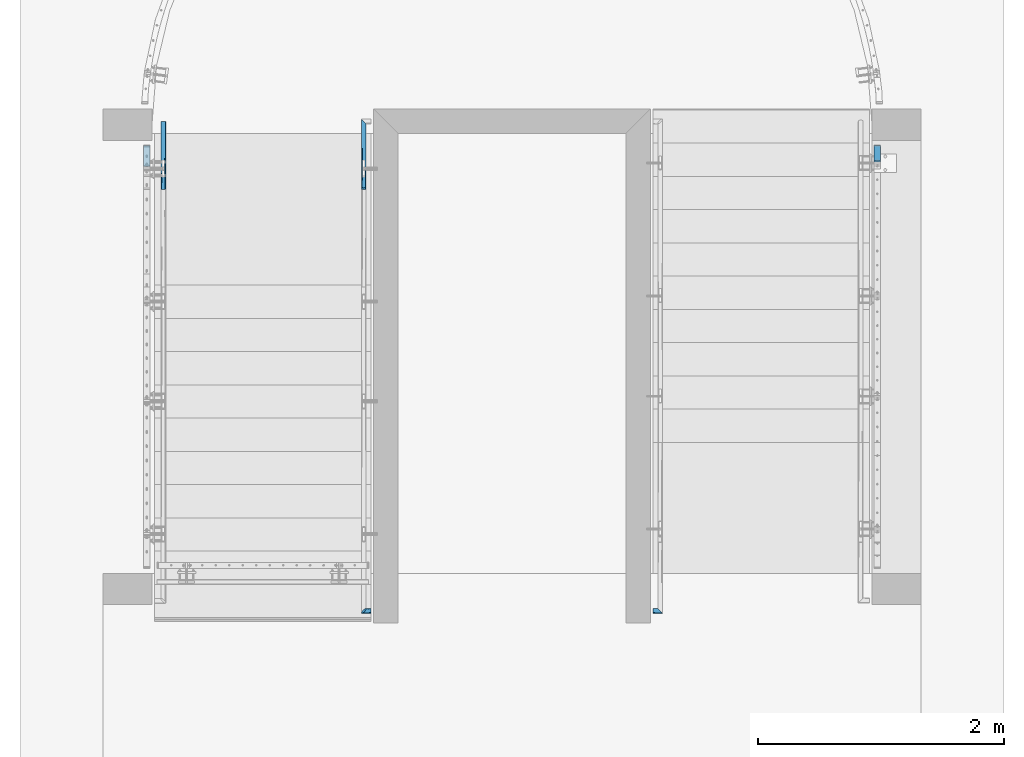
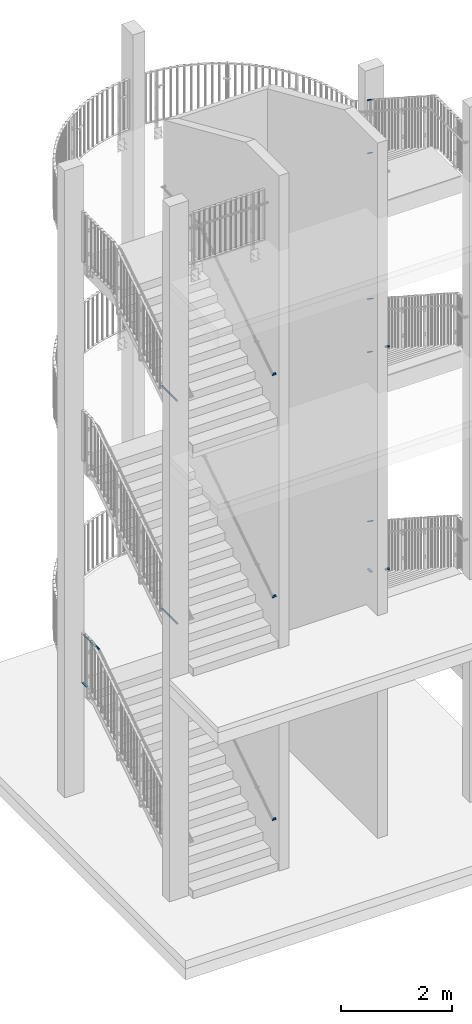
# One storey, part 100 of 296: 10 beams, 5 members, 5 openings.
"""IFC2X3 building model written with IfcOpenShell, lengths in millimetres."""

from ifc_helpers import new_model, entity, si_unit, converted_unit, frame, origin, origin_with_axes, origin_2d, place, context, project, spatial, polyline, rectangle, circle, outline, extrude, clip, halfspace, material, element, save


model = new_model("IFC2X3")

# Units and contexts
model_context = context("Model", 3, precision=1e-09, world=origin_with_axes())
ifc_project = project(units=[si_unit("LENGTHUNIT", "METRE", prefix="MILLI"), si_unit("AREAUNIT", "SQUARE_METRE"), si_unit("VOLUMEUNIT", "CUBIC_METRE"), converted_unit("PLANEANGLEUNIT", "DEGREE", entity("IfcPlaneAngleMeasure", 0.01745329), si_unit("PLANEANGLEUNIT", "RADIAN"), dimensions=[0, 0, 0, 0, 0, 0, 0])], contexts=[model_context])

# Site, building, storey
site_placement = place(None, origin_with_axes())
site = spatial("IfcSite", under=ifc_project, at=site_placement, Name="TZD-S?d | Treppenhausgel?nder", CompositionType="ELEMENT")
building_placement = place(site_placement, origin_with_axes())
building = spatial("IfcBuilding", under=site, at=building_placement, Name="Struktur 1", CompositionType="ELEMENT")
storey_placement = place(building_placement, origin_with_axes())
storey = spatial("IfcBuildingStorey", under=building, at=storey_placement, Name="Default Storey", CompositionType="ELEMENT", Elevation=0.0)

# Member, opening
ifc_material_1 = material(Name="S235JR")
member_1_placement = place(None, frame((5894.999, -275.642055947, 8789.555093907), z_axis=(0.0, -0.839339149, 0.543608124), x_axis=(0.0, 0.543608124, 0.839339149)))
member_1 = element("IfcMember", 1, at=member_1_placement, inside=storey, material=ifc_material_1, Name="Gel?nder", ObjectType="Gel?nder", context=model_context, shape_type="Clipping", body=[
    clip(extrude(rectangle(XDim=10.0, YDim=50.0, at=origin_2d()), origin(), (0.0, 0.0, 1.0), 190.120983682), halfspace(frame((-3463.787738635, 5894.999, 1912.461112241), z_axis=(0.477698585, 0.0, 0.878523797), x_axis=(0.0, -1.0, 0.0)), True)),
])
opening_1_placement = place(member_1_placement, frame((-39.872573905, -125.1, 197.155779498), z_axis=(0.0, -1.0, 0.0), x_axis=(0.543608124, 0.0, -0.839339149)))
element("IfcOpeningElement", 2, at=opening_1_placement, cuts=member_1, ObjectType="Opening", context=model_context, shape_type="SweptSolid", body=[
    extrude(outline(polyline([(0.0, 0.0), (30.298675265, 0.0), (30.298675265, 80.401021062), (0.0, 80.401021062), (0.0, 0.0)])), origin(), (0.0, 0.0, -1.0), 250.2),
])

member_2_placement = place(None, frame((5894.999, -292.281959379, 7632.246263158), z_axis=(0.0, -0.839339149, 0.543608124), x_axis=(0.0, 0.543608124, 0.839339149)))
member_2 = element("IfcMember", 3, at=member_2_placement, inside=storey, material=ifc_material_1, Name="-", ObjectType="-", context=model_context, shape_type="Clipping", body=[
    clip(extrude(rectangle(XDim=10.0, YDim=50.0, at=origin_2d()), origin(), (0.0, 0.0, 1.0), 188.497269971), halfspace(frame((-6474.112084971, 5894.999, -4043.851510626), z_axis=(0.543608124, 0.0, -0.839339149), x_axis=(0.0, 1.0, 0.0)), True)),
])
opening_2_placement = place(member_2_placement, frame((-30.538884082, -125.1, -16.539374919), z_axis=(0.0, -1.0, 0.0), x_axis=(0.543608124, 0.0, -0.839339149)))
element("IfcOpeningElement", 4, at=opening_2_placement, cuts=member_2, ObjectType="Opening", context=model_context, shape_type="SweptSolid", body=[
    extrude(outline(polyline([(0.0, 0.0), (64.006051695, 0.0), (64.006051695, 55.780597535), (0.0, 55.780597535), (0.0, 0.0)])), origin(), (0.0, 0.0, -1.0), 250.2),
])

member_3_placement = place(None, frame((5894.999, -275.624751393, 3896.341773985), z_axis=(0.0, -0.83975893, 0.542959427), x_axis=(0.0, 0.542959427, 0.83975893)))
member_3 = element("IfcMember", 5, at=member_3_placement, inside=storey, material=ifc_material_1, Name="Gel?nder", ObjectType="Gel?nder", context=model_context, shape_type="Clipping", body=[
    clip(extrude(rectangle(XDim=10.0, YDim=50.0, at=origin_2d()), origin(), (0.0, 0.0, 1.0), 190.042689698), halfspace(frame((-1411.166892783, 5894.999, 797.05818635), z_axis=(0.478037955, 0.0, 0.878339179), x_axis=(0.0, -1.0, 0.0)), True)),
])
opening_3_placement = place(member_3_placement, frame((-43.556477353, -125.1, 203.171378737), z_axis=(0.0, -1.0, 0.0), x_axis=(0.542959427, 0.0, -0.83975893)))
element("IfcOpeningElement", 6, at=opening_3_placement, cuts=member_3, ObjectType="Opening", context=model_context, shape_type="SweptSolid", body=[
    extrude(outline(polyline([(0.0, 0.0), (37.39013099, 0.0), (37.39013099, 81.550782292), (0.0, 81.550782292), (0.0, 0.0)])), origin(), (0.0, 0.0, -1.0), 250.2),
])

# Beam
beam_1_placement = place(None, frame((5894.999, -295.0, 2864.999), z_axis=(0.0, -1.0, 0.0), x_axis=(0.0, 0.0, 1.0)))
element("IfcBeam", 7, at=beam_1_placement, inside=storey, material=ifc_material_1, Name="-", ObjectType="-", context=model_context, shape_type="SweptSolid", body=[
    extrude(rectangle(XDim=10.0, YDim=50.0, at=origin_2d()), origin(), (0.0, 0.0, 1.0), 122.5),
])

# Member, opening
member_4_placement = place(None, frame((5894.999, -275.638590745, 13167.932584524), z_axis=(0.0, -0.839423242, 0.543478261), x_axis=(0.0, 0.543478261, 0.839423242)))
member_4 = element("IfcMember", 8, at=member_4_placement, inside=storey, material=ifc_material_1, Name="Gel?nder", ObjectType="Gel?nder", context=model_context, shape_type="Clipping", body=[
    clip(extrude(rectangle(XDim=10.0, YDim=50.0, at=origin_2d()), origin(), (0.0, 0.0, 1.0), 190.105291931), halfspace(frame((-5301.832064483, 5894.999, 2912.433008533), z_axis=(0.477766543, 0.0, 0.878486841), x_axis=(0.0, -1.0, 0.0)), True)),
])
opening_4_placement = place(member_4_placement, frame((-44.132148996, -125.1, 205.69891704), z_axis=(0.0, -1.0, 0.0), x_axis=(0.543478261, 0.0, -0.839423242)))
element("IfcOpeningElement", 9, at=opening_4_placement, cuts=member_4, ObjectType="Opening", context=model_context, shape_type="SweptSolid", body=[
    extrude(outline(polyline([(0.0, 0.0), (39.79290624, 0.0), (39.79290624, 80.529347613), (0.0, 80.529347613), (0.0, 0.0)])), origin(), (0.0, 0.0, -1.0), 250.2),
])

member_5_placement = place(None, frame((5894.999, -292.282608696, 12010.621570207), z_axis=(0.0, -0.839423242, 0.543478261), x_axis=(0.0, 0.543478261, 0.839423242)))
member_5 = element("IfcMember", 10, at=member_5_placement, inside=storey, material=ifc_material_1, Name="-", ObjectType="-", context=model_context, shape_type="Clipping", body=[
    clip(extrude(rectangle(XDim=10.0, YDim=50.0, at=origin_2d()), origin(), (0.0, 0.0, 1.0), 188.477612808), halfspace(frame((-10150.04728885, 5894.999, -6422.402173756), z_axis=(0.543478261, 0.0, -0.839423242), x_axis=(0.0, 1.0, 0.0)), True)),
])
opening_5_placement = place(member_5_placement, frame((-24.309652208, -125.1, -12.500697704), z_axis=(0.0, -1.0, 0.0), x_axis=(0.543478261, 0.0, -0.839423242)))
element("IfcOpeningElement", 11, at=opening_5_placement, cuts=member_5, ObjectType="Opening", context=model_context, shape_type="SweptSolid", body=[
    extrude(outline(polyline([(0.0, 0.0), (47.941552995, 0.0), (47.941552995, 49.371681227), (0.0, 49.371681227), (0.0, 0.0)])), origin(), (0.0, 0.0, -1.0), 250.2),
])

# Beams
ifc_material_2 = material(Name="Buche")
beam_2_placement = place(None, frame((1680.0, -4080.0, 10897.103877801), z_axis=(-1.0, 0.0, 0.0), x_axis=(0.0, -1.0, 0.0)))
element("IfcBeam", 12, at=beam_2_placement, inside=storey, material=ifc_material_2, Name="Girder", ObjectType="Girder", context=model_context, shape_type="Clipping", body=[
    clip(extrude(circle(Radius=20.0, at=origin_2d()), origin(), (0.0, 0.0, -1.0), 100.0), halfspace(frame((-4406.321932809, -10685.829198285, 2068.74541031), z_axis=(0.593561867, -0.384297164, -0.707106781), x_axis=(-0.765922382, 0.0, -0.642933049)), True)),
])
beam_3_placement = place(None, frame((1680.0, -4080.000000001, 6006.515738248), z_axis=(-1.0, 0.0, 0.0), x_axis=(0.0, -1.0, 0.0)))
element("IfcBeam", 13, at=beam_3_placement, inside=storey, material=ifc_material_2, Name="Girder", ObjectType="Girder", context=model_context, shape_type="Clipping", body=[
    clip(extrude(circle(Radius=20.0, at=origin_2d()), origin(), (0.0, 0.0, -1.0), 100.0), halfspace(frame((-3285.267844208, -6519.321391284, 734.183507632), z_axis=(0.594153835, -0.383381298, -0.707106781), x_axis=(-0.765606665, 0.0, -0.643308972)), True)),
])
beam_4_placement = place(None, frame((1680.0, -4080.0, 1104.146295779), z_axis=(-1.0, 0.0, 0.0), x_axis=(0.0, -1.0, 0.0)))
element("IfcBeam", 14, at=beam_4_placement, inside=storey, material=ifc_material_2, Name="Girder", ObjectType="Girder", context=model_context, shape_type="Clipping", body=[
    clip(extrude(circle(Radius=20.0, at=origin_2d()), origin(), (0.0, 0.0, -1.0), 100.0), halfspace(frame((-2174.883218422, -2340.114761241, -590.922279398), z_axis=(0.593204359, -0.384848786, -0.707106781), x_axis=(-0.766113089, 0.0, -0.642705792)), True)),
])
beam_5_placement = place(None, frame((1720.0, -663.59284486, 8229.999), z_axis=(0.0, 1.0, 0.0), x_axis=(-1.0, 0.0, 0.0)))
element("IfcBeam", 15, at=beam_5_placement, inside=storey, material=ifc_material_2, Name="Girder", ObjectType="Girder", context=model_context, shape_type="Clipping", body=[
    clip(clip(extrude(circle(Radius=20.0, at=origin_2d()), origin(), (0.0, 0.0, 1.0), 603.593845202), halfspace(frame((910.000206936, -8229.999, 1473.592637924), z_axis=(0.707106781, 0.0, -0.707106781), x_axis=(-0.707106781, 0.0, -0.707106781)), True)), halfspace(frame((1720.0, -7744.571296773, 2311.216125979), z_axis=(0.0, 0.282612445, 0.959234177), x_axis=(1.0, 0.0, 0.0)), True)),
])
beam_6_placement = place(None, frame((1720.0, -678.578275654, 3329.998), z_axis=(0.0, 1.0, 0.0), x_axis=(-1.0, 0.0, 0.0)))
element("IfcBeam", 16, at=beam_6_placement, inside=storey, material=ifc_material_2, Name="Girder", ObjectType="Girder", context=model_context, shape_type="Clipping", body=[
    clip(clip(extrude(circle(Radius=20.0, at=origin_2d()), origin(), (0.0, 0.0, 1.0), 618.579275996), halfspace(frame((910.000206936, -3329.998, 1488.578068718), z_axis=(0.707106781, 0.0, -0.707106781), x_axis=(-0.707106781, 0.0, -0.707106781)), True)), halfspace(frame((1720.0, -3238.429705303, 987.965437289), z_axis=(0.0, 0.283797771, 0.958884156), x_axis=(1.0, 0.0, 0.0)), True)),
])
beam_7_placement = place(None, frame((4069.999, -4080.0, 5780.0), z_axis=(-1.0, 0.0, 0.0), x_axis=(0.0, -1.0, 0.0)))
element("IfcBeam", 17, at=beam_7_placement, inside=storey, material=ifc_material_2, Name="Girder", ObjectType="Girder", context=model_context, shape_type="Clipping", body=[
    clip(extrude(circle(Radius=20.0, at=origin_2d()), origin(), (0.0, 0.0, -1.0), 100.0), halfspace(frame((-4104.998792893, -5780.0, 4045.000207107), z_axis=(0.707106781, 0.0, 0.707106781), x_axis=(0.707106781, 0.0, -0.707106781)), True)),
])
beam_8_placement = place(None, frame((4069.999, -4080.0, 10680.0), z_axis=(-1.0, 0.0, 0.0), x_axis=(0.0, -1.0, 0.0)))
element("IfcBeam", 18, at=beam_8_placement, inside=storey, material=ifc_material_2, Name="Girder", ObjectType="Girder", context=model_context, shape_type="Clipping", body=[
    clip(extrude(circle(Radius=20.0, at=origin_2d()), origin(), (0.0, 0.0, -1.0), 100.0), halfspace(frame((-4104.998792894, -10680.0, 4045.000207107), z_axis=(0.707106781, 0.0, 0.707106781), x_axis=(0.707106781, 0.0, -0.707106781)), True)),
])
beam_9_placement = place(None, frame((-45.0, -467.5, 2444.998), z_axis=(0.0, 1.0, 0.0), x_axis=(0.0, 0.0, 1.0)))
element("IfcBeam", 19, at=beam_9_placement, inside=storey, material=ifc_material_1, Name="-", ObjectType="-", context=model_context, shape_type="SweptSolid", body=[
    extrude(rectangle(XDim=10.0, YDim=50.0, at=origin_2d()), origin(), (0.0, 0.0, 1.0), 172.5),
])
beam_10_placement = place(None, frame((90.0, -678.578275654, 3329.998), z_axis=(0.0, -1.0, 0.0), x_axis=(1.0, 0.0, 0.0)))
element("IfcBeam", 20, at=beam_10_placement, inside=storey, material=ifc_material_2, Name="Girder", ObjectType="Girder", context=model_context, shape_type="Clipping", body=[
    clip(extrude(circle(Radius=20.0, at=origin_2d()), origin(), (0.0, 0.0, -1.0), 578.579268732), halfspace(frame((-90.0, -3238.429705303, -987.965437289), z_axis=(0.0, 0.283797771, -0.958884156), x_axis=(-1.0, 0.0, 0.0)), True)),
])

save(model, "model.ifc")
